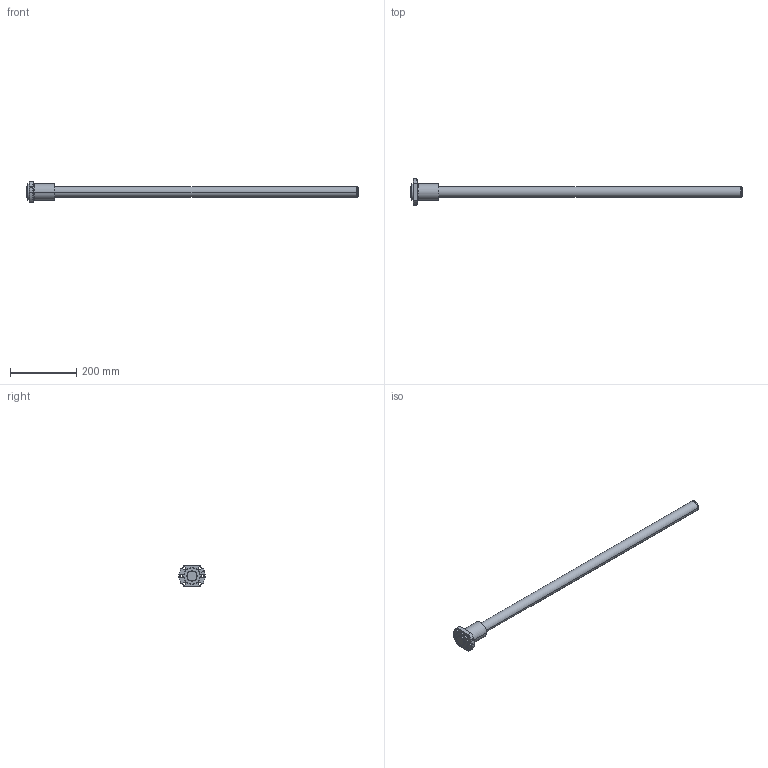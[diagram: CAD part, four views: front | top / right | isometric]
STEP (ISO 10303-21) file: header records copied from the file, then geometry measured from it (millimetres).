
FILE_DESCRIPTION( ( '' ), '1' );
FILE_NAME( 'C:/Users/v3-771-32344/Desktop/EBB STEP/EBB 3210-3 RRNone+1000L C7(908070)-ebb3.stp', '2015-08-27T13:38:36', ( '' ), ( '' ), ' ', ' ', ' ' );
FILE_SCHEMA( ( 'CONFIG_CONTROL_DESIGN' ) );
Length unit declared in the file: millimetre
Products named in the file (2): 1; 2
Bounding box: 1000 x 80 x 62 mm (x, y, z)
Volume: 922150.9 mm3; surface area: 134093.6 mm2
Topology: 2 solids, 2 shells, 67 faces, 155 edges, 99 vertices
Faces by surface type: cylinder 36, cone 18, plane 13
Entity records: 2167 total; most frequent: CARTESIAN_POINT 473, DIRECTION 366, ORIENTED_EDGE 310, AXIS2_PLACEMENT_3D 155, EDGE_CURVE 155, VERTEX_POINT 99, EDGE_LOOP 90, CIRCLE 86
